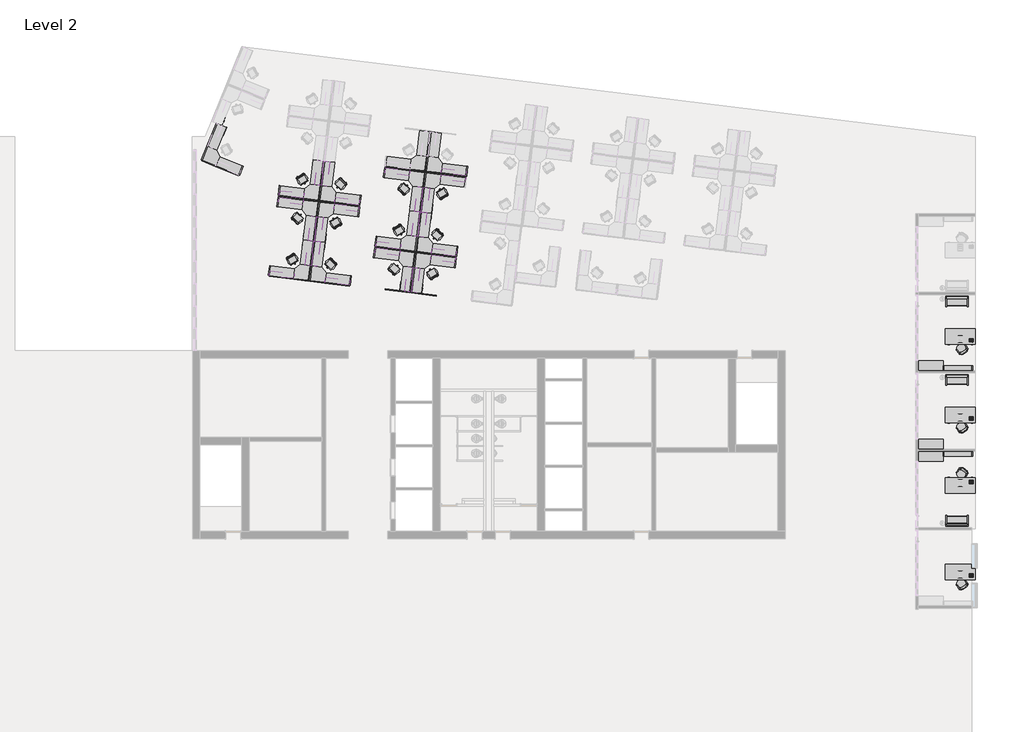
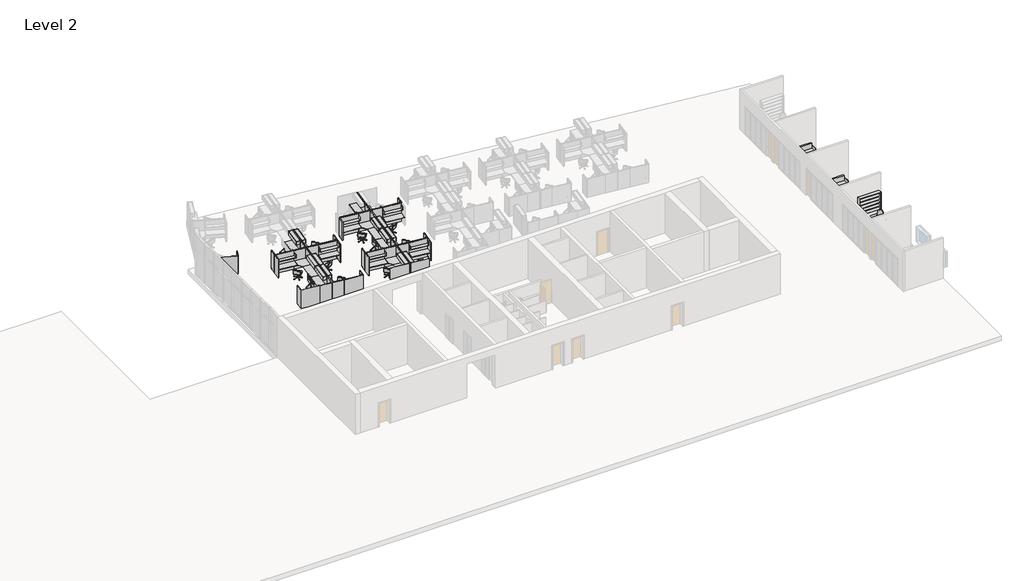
# One storey, part 5 of 7: 95 furniture elements, 4 proxies.
"""IFC4 building model written with IfcOpenShell, lengths in millimetres."""

from ifc_helpers import new_model, si_unit, origin, place, context, project, spatial, transform, mapped, element, save
from components import phone_phone_5230e7aa, phone_phone_b8b7aebd, chair_executive_chair_executive_8d69e98c, chair_executive_chair_executive_a5be4872, chair_task_arms_chair_task_arms_3b363349, chair_task_arms_chair_task_arms_8395c10b, furniture_894c625b, furniture_2f1724fb, furniture_665347ce, furniture_3ceed070, furniture_00cef8f1, furniture_8d825890, furniture_2fc54265, furniture_91cd4dc0, overhead_shelving_module_overhead_shelving_module_3ee17988, overhead_shelving_module_overhead_shelving_module_7dcda1b9, overhead_storage_module_overhead_storage_module_326dc690, overhead_storage_module_overhead_storage_module_bea9f75f, furniture_6f8441ab, furniture_6d145fab, furniture_22419f35, furniture_8ec9ccbf, furniture_0333d240, furniture_4718bb14, furniture_45e3acac, furniture_7b33082a

model = new_model("IFC4")

# Units and contexts
model_context = context("Model", 3, world=origin())
ifc_project = project(units=[si_unit("LENGTHUNIT", "METRE", prefix="MILLI")], contexts=[model_context])

# Site, building, storey
site = spatial("IfcSite", under=ifc_project)
building = spatial("IfcBuilding", under=site)
storey = spatial("IfcBuildingStorey", under=building, Name="Level 2", Elevation=3657.6)

# Proxies
placement = place(None, origin())
phone_phone_shape = phone_phone_5230e7aa(model_context)
element("IfcBuildingElementProxy", 1, Name="Phone : Phone", ObjectType="Phone : Phone", at=placement, inside=storey, context=model_context, shape_type="MappedRepresentation", body=[
    mapped(phone_phone_shape, transform((15049.386755, -11543.7561102, 4419.6), x_axis=(1.0, 0.0, 0.0), y_axis=(0.0, 1.0, 0.0), z_axis=(0.0, 0.0, 1.0))),
])
phone_phone_2_shape = phone_phone_b8b7aebd(model_context)
element("IfcBuildingElementProxy", 2, Name="Phone : Phone", ObjectType="Phone : Phone", at=placement, inside=storey, context=model_context, shape_type="MappedRepresentation", body=[
    mapped(phone_phone_2_shape, transform((15049.386755, -2377.1766865, 4419.6), x_axis=(1.0, 0.0, 0.0), y_axis=(0.0, 1.0, 0.0), z_axis=(0.0, 0.0, 1.0))),
])
element("IfcBuildingElementProxy", 3, Name="Phone : Phone", ObjectType="Phone : Phone", at=placement, inside=storey, context=model_context, shape_type="MappedRepresentation", body=[
    mapped(phone_phone_2_shape, transform((15049.386755, -7211.6809871, 4419.6), x_axis=(1.0, 0.0, 0.0), y_axis=(0.0, 1.0, 0.0), z_axis=(0.0, 0.0, 1.0))),
])
element("IfcBuildingElementProxy", 4, Name="Phone : Phone", ObjectType="Phone : Phone", at=placement, inside=storey, context=model_context, shape_type="MappedRepresentation", body=[
    mapped(phone_phone_2_shape, transform((15049.386755, -16880.6895882, 4419.6), x_axis=(1.0, 0.0, 0.0), y_axis=(0.0, 1.0, 0.0), z_axis=(0.0, 0.0, 1.0))),
])

# Furniture
chair_executive_chair_executive_shape = chair_executive_chair_executive_8d69e98c(model_context)
element("IfcFurniture", 5, ObjectType="Chair-Executive : Chair-Executive", at=placement, inside=storey, context=model_context, shape_type="MappedRepresentation", body=[
    mapped(chair_executive_chair_executive_shape, transform((14331.1988374, -10895.4183478, 3657.6), x_axis=(-0.8386705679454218, 0.5446390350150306, 0.0), y_axis=(-0.5446390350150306, -0.8386705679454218, 0.0), z_axis=(0.0, 0.0, 1.0))),
])
chair_executive_chair_executive_2_shape = chair_executive_chair_executive_a5be4872(model_context)
element("IfcFurniture", 6, ObjectType="Chair-Executive : Chair-Executive", at=placement, inside=storey, context=model_context, shape_type="MappedRepresentation", body=[
    mapped(chair_executive_chair_executive_2_shape, transform((14331.1988374, -3025.5144489, 3657.6), x_axis=(-0.8386705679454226, -0.5446390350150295, 0.0), y_axis=(0.5446390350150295, -0.8386705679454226, 0.0), z_axis=(0.0, 0.0, 1.0))),
])
element("IfcFurniture", 7, ObjectType="Chair-Executive : Chair-Executive", at=placement, inside=storey, context=model_context, shape_type="MappedRepresentation", body=[
    mapped(chair_executive_chair_executive_2_shape, transform((14331.1988374, -7860.0187495, 3657.6), x_axis=(-0.8386705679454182, -0.5446390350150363, 0.0), y_axis=(0.5446390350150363, -0.8386705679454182, 0.0), z_axis=(0.0, 0.0, 1.0))),
])
element("IfcFurniture", 8, ObjectType="Chair-Executive : Chair-Executive", at=placement, inside=storey, context=model_context, shape_type="MappedRepresentation", body=[
    mapped(chair_executive_chair_executive_2_shape, transform((14331.1988374, -17529.0273506, 3657.6), x_axis=(-0.8386705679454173, -0.5446390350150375, 0.0), y_axis=(0.5446390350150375, -0.8386705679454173, 0.0), z_axis=(0.0, 0.0, 1.0))),
])
chair_task_arms_chair_task_arms_shape = chair_task_arms_chair_task_arms_3b363349(model_context)
element("IfcFurniture", 9, ObjectType="Chair-Task Arms : Chair-Task Arms", at=placement, inside=storey, context=model_context, shape_type="MappedRepresentation", body=[
    mapped(chair_task_arms_chair_task_arms_shape, transform((-20294.5435692, 6809.0079878, 3657.6), x_axis=(0.719339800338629, -0.6946583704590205, 0.0), y_axis=(0.6946583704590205, 0.719339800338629, 0.0), z_axis=(0.0, 0.0, 1.0))),
])
element("IfcFurniture", 10, ObjectType="Chair-Task Arms : Chair-Task Arms", at=placement, inside=storey, context=model_context, shape_type="MappedRepresentation", body=[
    mapped(chair_task_arms_chair_task_arms_shape, transform((-23959.1336884, 6961.7514569, 3657.6), x_axis=(-0.7193398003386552, 0.6946583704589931, 0.0), y_axis=(-0.6946583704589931, -0.7193398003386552, 0.0), z_axis=(0.0, 0.0, 1.0))),
])
element("IfcFurniture", 11, ObjectType="Chair-Task Arms : Chair-Task Arms", at=placement, inside=storey, context=model_context, shape_type="MappedRepresentation", body=[
    mapped(chair_task_arms_chair_task_arms_shape, transform((-17997.8622143, 3824.2688972, 3657.6), x_axis=(-0.7193398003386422, 0.6946583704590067, 0.0), y_axis=(-0.6946583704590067, -0.7193398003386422, 0.0), z_axis=(0.0, 0.0, 1.0))),
])
element("IfcFurniture", 12, ObjectType="Chair-Task Arms : Chair-Task Arms", at=placement, inside=storey, context=model_context, shape_type="MappedRepresentation", body=[
    mapped(chair_task_arms_chair_task_arms_shape, transform((-24565.8480276, 2020.4596955, 3657.6), x_axis=(-0.7193398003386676, 0.6946583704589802, 0.0), y_axis=(-0.6946583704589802, -0.7193398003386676, 0.0), z_axis=(0.0, 0.0, 1.0))),
])
element("IfcFurniture", 13, ObjectType="Chair-Task Arms : Chair-Task Arms", at=placement, inside=storey, context=model_context, shape_type="MappedRepresentation", body=[
    mapped(chair_task_arms_chair_task_arms_shape, transform((-20901.2579084, 1867.7162265, 3657.6), x_axis=(0.7193398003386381, -0.694658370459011, 0.0), y_axis=(0.694658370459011, 0.7193398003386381, 0.0), z_axis=(0.0, 0.0, 1.0))),
])
element("IfcFurniture", 14, ObjectType="Chair-Task Arms : Chair-Task Arms", at=placement, inside=storey, context=model_context, shape_type="MappedRepresentation", body=[
    mapped(chair_task_arms_chair_task_arms_shape, transform((-26862.5293825, 5005.1987861, 3657.6), x_axis=(0.7193398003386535, -0.6946583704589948, 0.0), y_axis=(0.6946583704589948, 0.7193398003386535, 0.0), z_axis=(0.0, 0.0, 1.0))),
])
chair_task_arms_chair_task_arms_2_shape = chair_task_arms_chair_task_arms_8395c10b(model_context)
element("IfcFurniture", 15, ObjectType="Chair-Task Arms : Chair-Task Arms", at=placement, inside=storey, context=model_context, shape_type="MappedRepresentation", body=[
    mapped(chair_task_arms_chair_task_arms_2_shape, transform((-17670.9359707, 6486.8694808, 3657.6), x_axis=(-0.866025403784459, -0.49999999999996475, 0.0), y_axis=(0.49999999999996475, -0.866025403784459, 0.0), z_axis=(0.0, 0.0, 1.0))),
])
element("IfcFurniture", 16, ObjectType="Chair-Task Arms : Chair-Task Arms", at=placement, inside=storey, context=model_context, shape_type="MappedRepresentation", body=[
    mapped(chair_task_arms_chair_task_arms_2_shape, transform((-20621.4698127, 4146.4074042, 3657.6), x_axis=(0.8660254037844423, 0.4999999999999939, 0.0), y_axis=(-0.4999999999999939, 0.8660254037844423, 0.0), z_axis=(0.0, 0.0, 1.0))),
])
element("IfcFurniture", 17, ObjectType="Chair-Task Arms : Chair-Task Arms", at=placement, inside=storey, context=model_context, shape_type="MappedRepresentation", body=[
    mapped(chair_task_arms_chair_task_arms_2_shape, transform((-24238.921784, 4683.0602792, 3657.6), x_axis=(-0.8660254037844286, -0.5000000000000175, 0.0), y_axis=(0.5000000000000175, -0.8660254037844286, 0.0), z_axis=(0.0, 0.0, 1.0))),
])
element("IfcFurniture", 18, ObjectType="Chair-Task Arms : Chair-Task Arms", at=placement, inside=storey, context=model_context, shape_type="MappedRepresentation", body=[
    mapped(chair_task_arms_chair_task_arms_2_shape, transform((-18277.6503099, 1545.5777195, 3657.6), x_axis=(-0.8660254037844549, -0.4999999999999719, 0.0), y_axis=(0.4999999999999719, -0.8660254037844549, 0.0), z_axis=(0.0, 0.0, 1.0))),
])
element("IfcFurniture", 19, ObjectType="Chair-Task Arms : Chair-Task Arms", at=placement, inside=storey, context=model_context, shape_type="MappedRepresentation", body=[
    mapped(chair_task_arms_chair_task_arms_2_shape, transform((-26582.7412868, 7283.8899638, 3657.6), x_axis=(0.8660254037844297, 0.5000000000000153, 0.0), y_axis=(-0.5000000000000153, 0.8660254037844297, 0.0), z_axis=(0.0, 0.0, 1.0))),
])
element("IfcFurniture", 20, ObjectType="Chair-Task Arms : Chair-Task Arms", at=placement, inside=storey, context=model_context, shape_type="MappedRepresentation", body=[
    mapped(chair_task_arms_chair_task_arms_2_shape, transform((-27189.455626, 2342.5982025, 3657.6), x_axis=(0.8660254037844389, 0.49999999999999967, 0.0), y_axis=(-0.49999999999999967, 0.8660254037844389, 0.0), z_axis=(0.0, 0.0, 1.0))),
])
furniture_shape = furniture_894c625b(model_context)
element("IfcFurniture", 21, ObjectType="Credenza : 60\" x 24\"", at=placement, inside=storey, context=model_context, shape_type="MappedRepresentation", body=[
    mapped(furniture_shape, transform((12221.5111465, -4173.1445759, 3657.6), x_axis=(1.0, 0.0, 0.0), y_axis=(0.0, 1.0, 0.0), z_axis=(0.0, 0.0, 1.0))),
])
element("IfcFurniture", 22, ObjectType="Credenza : 60\" x 24\"", at=placement, inside=storey, context=model_context, shape_type="MappedRepresentation", body=[
    mapped(furniture_shape, transform((12221.5111465, -9007.6488765, 3657.6), x_axis=(1.0, 0.0, 0.0), y_axis=(0.0, 1.0, 0.0), z_axis=(0.0, 0.0, 1.0))),
])
furniture_2_shape = furniture_2f1724fb(model_context)
element("IfcFurniture", 23, ObjectType="Credenza : 60\" x 24\"", at=placement, inside=storey, context=model_context, shape_type="MappedRepresentation", body=[
    mapped(furniture_2_shape, transform((12221.5111465, -9747.7882208, 3657.6), x_axis=(1.0, 0.0, 0.0), y_axis=(0.0, 1.0, 0.0), z_axis=(0.0, 0.0, 1.0))),
])
furniture_3_shape = furniture_665347ce(model_context)
element("IfcFurniture", 24, ObjectType="Cube Panel : 24\" x 66\"", at=placement, inside=storey, context=model_context, shape_type="MappedRepresentation", body=[
    mapped(furniture_3_shape, transform((-21382.0390135, 7740.7875626, 3657.6), x_axis=(-0.12186934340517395, -0.9925461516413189, 0.0), y_axis=(0.9925461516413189, -0.12186934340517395, 0.0), z_axis=(0.0, 0.0, 1.0))),
])
element("IfcFurniture", 25, ObjectType="Cube Panel : 24\" x 66\"", at=placement, inside=storey, context=model_context, shape_type="MappedRepresentation", body=[
    mapped(furniture_3_shape, transform((-16303.6524307, 7833.7810838, 3657.6), x_axis=(0.12186934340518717, 0.9925461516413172, 0.0), y_axis=(-0.9925461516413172, 0.12186934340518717, 0.0), z_axis=(0.0, 0.0, 1.0))),
])
element("IfcFurniture", 26, ObjectType="Cube Panel : 24\" x 66\"", at=placement, inside=storey, context=model_context, shape_type="MappedRepresentation", body=[
    mapped(furniture_3_shape, transform((-22871.638244, 6029.9718821, 3657.6), x_axis=(0.12186934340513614, 0.9925461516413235, 0.0), y_axis=(-0.9925461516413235, 0.12186934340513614, 0.0), z_axis=(0.0, 0.0, 1.0))),
])
element("IfcFurniture", 27, ObjectType="Cube Panel : 24\" x 66\"", at=placement, inside=storey, context=model_context, shape_type="MappedRepresentation", body=[
    mapped(furniture_3_shape, transform((-16910.3667699, 2892.4893225, 3657.6), x_axis=(0.12186934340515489, 0.9925461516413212, 0.0), y_axis=(-0.9925461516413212, 0.12186934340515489, 0.0), z_axis=(0.0, 0.0, 1.0))),
])
element("IfcFurniture", 28, ObjectType="Cube Panel : 24\" x 66\"", at=placement, inside=storey, context=model_context, shape_type="MappedRepresentation", body=[
    mapped(furniture_3_shape, transform((-23478.3525832, 1088.6801208, 3657.6), x_axis=(0.12186934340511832, 0.9925461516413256, 0.0), y_axis=(-0.9925461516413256, 0.12186934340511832, 0.0), z_axis=(0.0, 0.0, 1.0))),
])
element("IfcFurniture", 29, ObjectType="Cube Panel : 24\" x 66\"", at=placement, inside=storey, context=model_context, shape_type="MappedRepresentation", body=[
    mapped(furniture_3_shape, transform((-21988.7533528, 2799.4958013, 3657.6), x_axis=(-0.12186934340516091, -0.9925461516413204, 0.0), y_axis=(0.9925461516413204, -0.12186934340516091, 0.0), z_axis=(0.0, 0.0, 1.0))),
])
element("IfcFurniture", 30, ObjectType="Cube Panel : 24\" x 66\"", at=placement, inside=storey, context=model_context, shape_type="MappedRepresentation", body=[
    mapped(furniture_3_shape, transform((-27950.0248269, 5936.9783609, 3657.6), x_axis=(-0.12186934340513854, -0.9925461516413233, 0.0), y_axis=(0.9925461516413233, -0.12186934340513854, 0.0), z_axis=(0.0, 0.0, 1.0))),
])
element("IfcFurniture", 31, ObjectType="Cube Panel : 24\" x 66\"", at=placement, inside=storey, context=model_context, shape_type="MappedRepresentation", body=[
    mapped(furniture_3_shape, transform((-30219.5912683, 7857.7185256, 3657.6), x_axis=(0.3785502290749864, 0.9255807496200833, 0.0), y_axis=(-0.9255807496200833, 0.3785502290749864, 0.0), z_axis=(0.0, 0.0, 1.0))),
])
furniture_4_shape = furniture_3ceed070(model_context)
element("IfcFurniture", 32, ObjectType="Cube Panel : 24\" x 66\"", at=placement, inside=storey, context=model_context, shape_type="MappedRepresentation", body=[
    mapped(furniture_4_shape, transform((-21902.0798757, 3505.3946243, 3657.6), x_axis=(0.12186934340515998, 0.9925461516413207, 0.0), y_axis=(-0.9925461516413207, 0.12186934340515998, 0.0), z_axis=(0.0, 0.0, 1.0))),
])
element("IfcFurniture", 33, ObjectType="Cube Panel : 24\" x 66\"", at=placement, inside=storey, context=model_context, shape_type="MappedRepresentation", body=[
    mapped(furniture_4_shape, transform((-22958.311721, 5324.073059, 3657.6), x_axis=(-0.12186934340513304, -0.992546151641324, 0.0), y_axis=(0.992546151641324, -0.12186934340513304, 0.0), z_axis=(0.0, 0.0, 1.0))),
])
element("IfcFurniture", 34, ObjectType="Cube Panel : 24\" x 66\"", at=placement, inside=storey, context=model_context, shape_type="MappedRepresentation", body=[
    mapped(furniture_4_shape, transform((-16997.0402469, 2186.5904994, 3657.6), x_axis=(-0.12186934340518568, -0.9925461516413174, 0.0), y_axis=(0.9925461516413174, -0.12186934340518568, 0.0), z_axis=(0.0, 0.0, 1.0))),
])
element("IfcFurniture", 35, ObjectType="Cube Panel : 24\" x 66\"", at=placement, inside=storey, context=model_context, shape_type="MappedRepresentation", body=[
    mapped(furniture_4_shape, transform((-27863.3513498, 6642.8771839, 3657.6), x_axis=(0.12186934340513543, 0.9925461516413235, 0.0), y_axis=(-0.9925461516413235, 0.12186934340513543, 0.0), z_axis=(0.0, 0.0, 1.0))),
])
element("IfcFurniture", 36, ObjectType="Cube Panel : 24\" x 66\"", at=placement, inside=storey, context=model_context, shape_type="MappedRepresentation", body=[
    mapped(furniture_4_shape, transform((-28470.065689, 1701.5854226, 3657.6), x_axis=(0.12186934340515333, 0.9925461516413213, 0.0), y_axis=(-0.9925461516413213, 0.12186934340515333, 0.0), z_axis=(0.0, 0.0, 1.0))),
])
furniture_5_shape = furniture_00cef8f1(model_context)
element("IfcFurniture", 37, ObjectType="Cube Panel : 60\" x 66\"", at=placement, inside=storey, context=model_context, shape_type="MappedRepresentation", body=[
    mapped(furniture_5_shape, transform((-20562.7542243, 449.1914113, 3657.6), x_axis=(-0.9925461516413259, 0.12186934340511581, 0.0), y_axis=(-0.12186934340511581, -0.9925461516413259, 0.0), z_axis=(0.0, 0.0, 1.0))),
])
furniture_6_shape = furniture_8d825890(model_context)
element("IfcFurniture", 38, ObjectType="Cube Panel : 60\" x 66\"", at=placement, inside=storey, context=model_context, shape_type="MappedRepresentation", body=[
    mapped(furniture_6_shape, transform((-18949.2712002, 251.0806066, 3657.6), x_axis=(0.9925461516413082, -0.12186934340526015, 0.0), y_axis=(0.12186934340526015, 0.9925461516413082, 0.0), z_axis=(0.0, 0.0, 1.0))),
])
furniture_7_shape = furniture_2fc54265(model_context)
element("IfcFurniture", 39, ObjectType="Desk : 72\" x 36\"", at=placement, inside=storey, context=model_context, shape_type="MappedRepresentation", body=[
    mapped(furniture_7_shape, transform((13214.5054088, -12007.5598812, 3657.6), x_axis=(1.0, 0.0, 0.0), y_axis=(0.0, 1.0, 0.0), z_axis=(0.0, 0.0, 1.0))),
])
furniture_8_shape = furniture_91cd4dc0(model_context)
element("IfcFurniture", 40, ObjectType="Desk : 72\" x 36\"", at=placement, inside=storey, context=model_context, shape_type="MappedRepresentation", body=[
    mapped(furniture_8_shape, transform((13214.5054088, -1913.3729155, 3657.6), x_axis=(1.0, 0.0, 0.0), y_axis=(0.0, 1.0, 0.0), z_axis=(0.0, 0.0, 1.0))),
])
element("IfcFurniture", 41, ObjectType="Desk : 72\" x 36\"", at=placement, inside=storey, context=model_context, shape_type="MappedRepresentation", body=[
    mapped(furniture_8_shape, transform((13214.5054088, -6747.877216, 3657.6), x_axis=(1.0, 0.0, 0.0), y_axis=(0.0, 1.0, 0.0), z_axis=(0.0, 0.0, 1.0))),
])
element("IfcFurniture", 42, ObjectType="Desk : 72\" x 36\"", at=placement, inside=storey, context=model_context, shape_type="MappedRepresentation", body=[
    mapped(furniture_8_shape, transform((13214.5054088, -16416.8858172, 3657.6), x_axis=(1.0, 0.0, 0.0), y_axis=(0.0, 1.0, 0.0), z_axis=(0.0, 0.0, 1.0))),
])
overhead_shelving_module_overhead_shelving_module_shape = overhead_shelving_module_overhead_shelving_module_3ee17988(model_context)
element("IfcFurniture", 43, ObjectType="Overhead Shelving Module : Overhead Shelving Module", at=placement, inside=storey, context=model_context, shape_type="MappedRepresentation", body=[
    mapped(overhead_shelving_module_overhead_shelving_module_shape, transform((-20435.5371217, 7693.7235514, 3505.2), x_axis=(0.9925461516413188, -0.12186934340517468, 0.0), y_axis=(0.12186934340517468, 0.9925461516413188, 0.0), z_axis=(0.0, 0.0, 1.0))),
])
element("IfcFurniture", 44, ObjectType="Overhead Shelving Module : Overhead Shelving Module", at=placement, inside=storey, context=model_context, shape_type="MappedRepresentation", body=[
    mapped(overhead_shelving_module_overhead_shelving_module_shape, transform((-17250.1543225, 7880.8450949, 3505.2), x_axis=(-0.9925461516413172, 0.12186934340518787, 0.0), y_axis=(-0.12186934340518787, -0.9925461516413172, 0.0), z_axis=(0.0, 0.0, 1.0))),
])
element("IfcFurniture", 45, ObjectType="Overhead Shelving Module : Overhead Shelving Module", at=placement, inside=storey, context=model_context, shape_type="MappedRepresentation", body=[
    mapped(overhead_shelving_module_overhead_shelving_module_shape, transform((-23818.1401358, 6077.0358932, 3505.2), x_axis=(-0.9925461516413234, 0.12186934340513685, 0.0), y_axis=(-0.12186934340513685, -0.9925461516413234, 0.0), z_axis=(0.0, 0.0, 1.0))),
])
element("IfcFurniture", 46, ObjectType="Overhead Shelving Module : Overhead Shelving Module", at=placement, inside=storey, context=model_context, shape_type="MappedRepresentation", body=[
    mapped(overhead_shelving_module_overhead_shelving_module_shape, transform((-17856.8686617, 2939.5533336, 3505.2), x_axis=(-0.9925461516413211, 0.12186934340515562, 0.0), y_axis=(-0.12186934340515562, -0.9925461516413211, 0.0), z_axis=(0.0, 0.0, 1.0))),
])
element("IfcFurniture", 47, ObjectType="Overhead Shelving Module : Overhead Shelving Module", at=placement, inside=storey, context=model_context, shape_type="MappedRepresentation", body=[
    mapped(overhead_shelving_module_overhead_shelving_module_shape, transform((-24424.8544751, 1135.7441319, 3505.2), x_axis=(-0.9925461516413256, 0.12186934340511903, 0.0), y_axis=(-0.12186934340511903, -0.9925461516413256, 0.0), z_axis=(0.0, 0.0, 1.0))),
])
element("IfcFurniture", 48, ObjectType="Overhead Shelving Module : Overhead Shelving Module", at=placement, inside=storey, context=model_context, shape_type="MappedRepresentation", body=[
    mapped(overhead_shelving_module_overhead_shelving_module_shape, transform((-21042.2514609, 2752.4317901, 3505.2), x_axis=(0.9925461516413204, -0.12186934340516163, 0.0), y_axis=(0.12186934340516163, 0.9925461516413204, 0.0), z_axis=(0.0, 0.0, 1.0))),
])
element("IfcFurniture", 49, ObjectType="Overhead Shelving Module : Overhead Shelving Module", at=placement, inside=storey, context=model_context, shape_type="MappedRepresentation", body=[
    mapped(overhead_shelving_module_overhead_shelving_module_shape, transform((-27003.522935, 5889.9143497, 3505.2), x_axis=(0.9925461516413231, -0.12186934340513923, 0.0), y_axis=(0.12186934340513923, 0.9925461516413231, 0.0), z_axis=(0.0, 0.0, 1.0))),
])
overhead_shelving_module_overhead_shelving_module_2_shape = overhead_shelving_module_overhead_shelving_module_7dcda1b9(model_context)
element("IfcFurniture", 50, ObjectType="Overhead Shelving Module : Overhead Shelving Module", at=placement, inside=storey, context=model_context, shape_type="MappedRepresentation", body=[
    mapped(overhead_shelving_module_overhead_shelving_module_2_shape, transform((-17320.0984631, 7311.1957837, 3505.2), x_axis=(-0.9925461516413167, 0.12186934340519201, 0.0), y_axis=(-0.12186934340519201, -0.9925461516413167, 0.0), z_axis=(0.0, 0.0, 1.0))),
])
element("IfcFurniture", 51, ObjectType="Overhead Shelving Module : Overhead Shelving Module", at=placement, inside=storey, context=model_context, shape_type="MappedRepresentation", body=[
    mapped(overhead_shelving_module_overhead_shelving_module_2_shape, transform((-20972.3073204, 3322.0811013, 3505.2), x_axis=(0.9925461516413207, -0.12186934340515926, 0.0), y_axis=(0.12186934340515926, 0.9925461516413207, 0.0), z_axis=(0.0, 0.0, 1.0))),
])
element("IfcFurniture", 52, ObjectType="Overhead Shelving Module : Overhead Shelving Module", at=placement, inside=storey, context=model_context, shape_type="MappedRepresentation", body=[
    mapped(overhead_shelving_module_overhead_shelving_module_2_shape, transform((-23888.0842764, 5507.386582, 3505.2), x_axis=(-0.992546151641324, 0.12186934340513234, 0.0), y_axis=(-0.12186934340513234, -0.992546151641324, 0.0), z_axis=(0.0, 0.0, 1.0))),
])
element("IfcFurniture", 53, ObjectType="Overhead Shelving Module : Overhead Shelving Module", at=placement, inside=storey, context=model_context, shape_type="MappedRepresentation", body=[
    mapped(overhead_shelving_module_overhead_shelving_module_2_shape, transform((-17926.8128023, 2369.9040224, 3505.2), x_axis=(-0.9925461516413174, 0.12186934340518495, 0.0), y_axis=(-0.12186934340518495, -0.9925461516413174, 0.0), z_axis=(0.0, 0.0, 1.0))),
])
element("IfcFurniture", 54, ObjectType="Overhead Shelving Module : Overhead Shelving Module", at=placement, inside=storey, context=model_context, shape_type="MappedRepresentation", body=[
    mapped(overhead_shelving_module_overhead_shelving_module_2_shape, transform((-26933.5787945, 6459.563661, 3505.2), x_axis=(0.9925461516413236, -0.12186934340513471, 0.0), y_axis=(0.12186934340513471, 0.9925461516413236, 0.0), z_axis=(0.0, 0.0, 1.0))),
])
element("IfcFurniture", 55, ObjectType="Overhead Shelving Module : Overhead Shelving Module", at=placement, inside=storey, context=model_context, shape_type="MappedRepresentation", body=[
    mapped(overhead_shelving_module_overhead_shelving_module_2_shape, transform((-27540.2931337, 1518.2718996, 3505.2), x_axis=(0.9925461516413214, -0.12186934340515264, 0.0), y_axis=(0.12186934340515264, 0.9925461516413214, 0.0), z_axis=(0.0, 0.0, 1.0))),
])
overhead_storage_module_overhead_storage_module_shape = overhead_storage_module_overhead_storage_module_326dc690(model_context)
element("IfcFurniture", 56, ObjectType="Overhead Storage Module : Overhead Storage Module", at=placement, inside=storey, context=model_context, shape_type="MappedRepresentation", body=[
    mapped(overhead_storage_module_overhead_storage_module_shape, transform((-19357.3919537, 5951.3242965, 3657.6), x_axis=(-0.12186934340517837, -0.9925461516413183, 0.0), y_axis=(0.9925461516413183, -0.12186934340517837, 0.0), z_axis=(0.0, 0.0, 1.0))),
])
element("IfcFurniture", 57, ObjectType="Overhead Storage Module : Overhead Storage Module", at=placement, inside=storey, context=model_context, shape_type="MappedRepresentation", body=[
    mapped(overhead_storage_module_overhead_storage_module_shape, transform((-24896.2853038, 7819.4351481, 3657.6), x_axis=(0.12186934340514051, 0.992546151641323, 0.0), y_axis=(-0.992546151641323, 0.12186934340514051, 0.0), z_axis=(0.0, 0.0, 1.0))),
])
element("IfcFurniture", 58, ObjectType="Overhead Storage Module : Overhead Storage Module", at=placement, inside=storey, context=model_context, shape_type="MappedRepresentation", body=[
    mapped(overhead_storage_module_overhead_storage_module_shape, transform((-18935.0138297, 4681.9525885, 3657.6), x_axis=(0.12186934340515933, 0.9925461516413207, 0.0), y_axis=(-0.9925461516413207, 0.12186934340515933, 0.0), z_axis=(0.0, 0.0, 1.0))),
])
element("IfcFurniture", 59, ObjectType="Overhead Storage Module : Overhead Storage Module", at=placement, inside=storey, context=model_context, shape_type="MappedRepresentation", body=[
    mapped(overhead_storage_module_overhead_storage_module_shape, transform((-25502.999643, 2878.1433868, 3657.6), x_axis=(0.12186934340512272, 0.9925461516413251, 0.0), y_axis=(-0.9925461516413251, 0.12186934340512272, 0.0), z_axis=(0.0, 0.0, 1.0))),
])
element("IfcFurniture", 60, ObjectType="Overhead Storage Module : Overhead Storage Module", at=placement, inside=storey, context=model_context, shape_type="MappedRepresentation", body=[
    mapped(overhead_storage_module_overhead_storage_module_shape, transform((-19964.1062929, 1010.0325352, 3657.6), x_axis=(-0.12186934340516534, -0.99254615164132, 0.0), y_axis=(0.99254615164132, -0.12186934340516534, 0.0), z_axis=(0.0, 0.0, 1.0))),
])
element("IfcFurniture", 61, ObjectType="Overhead Storage Module : Overhead Storage Module", at=placement, inside=storey, context=model_context, shape_type="MappedRepresentation", body=[
    mapped(overhead_storage_module_overhead_storage_module_shape, transform((-25925.377767, 4147.5150948, 3657.6), x_axis=(-0.12186934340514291, -0.9925461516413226, 0.0), y_axis=(0.9925461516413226, -0.12186934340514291, 0.0), z_axis=(0.0, 0.0, 1.0))),
])
overhead_storage_module_overhead_storage_module_2_shape = overhead_storage_module_overhead_storage_module_bea9f75f(model_context)
element("IfcFurniture", 62, ObjectType="Overhead Storage Module : Overhead Storage Module", at=placement, inside=storey, context=model_context, shape_type="MappedRepresentation", body=[
    mapped(overhead_storage_module_overhead_storage_module_2_shape, transform((-18787.7426425, 5881.380156, 3657.6), x_axis=(-0.1218693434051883, -0.9925461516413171, 0.0), y_axis=(0.9925461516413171, -0.1218693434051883, 0.0), z_axis=(0.0, 0.0, 1.0))),
])
element("IfcFurniture", 63, ObjectType="Overhead Storage Module : Overhead Storage Module", at=placement, inside=storey, context=model_context, shape_type="MappedRepresentation", body=[
    mapped(overhead_storage_module_overhead_storage_module_2_shape, transform((-19504.6631409, 4751.896729, 3657.6), x_axis=(0.12186934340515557, 0.9925461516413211, 0.0), y_axis=(-0.9925461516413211, 0.12186934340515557, 0.0), z_axis=(0.0, 0.0, 1.0))),
])
element("IfcFurniture", 64, ObjectType="Overhead Storage Module : Overhead Storage Module", at=placement, inside=storey, context=model_context, shape_type="MappedRepresentation", body=[
    mapped(overhead_storage_module_overhead_storage_module_2_shape, transform((-25355.7284558, 4077.5709543, 3657.6), x_axis=(-0.12186934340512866, -0.9925461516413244, 0.0), y_axis=(0.9925461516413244, -0.12186934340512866, 0.0), z_axis=(0.0, 0.0, 1.0))),
])
element("IfcFurniture", 65, ObjectType="Overhead Storage Module : Overhead Storage Module", at=placement, inside=storey, context=model_context, shape_type="MappedRepresentation", body=[
    mapped(overhead_storage_module_overhead_storage_module_2_shape, transform((-19394.4569817, 940.0883947, 3657.6), x_axis=(-0.12186934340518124, -0.992546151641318, 0.0), y_axis=(0.992546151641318, -0.12186934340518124, 0.0), z_axis=(0.0, 0.0, 1.0))),
])
element("IfcFurniture", 66, ObjectType="Overhead Storage Module : Overhead Storage Module", at=placement, inside=storey, context=model_context, shape_type="MappedRepresentation", body=[
    mapped(overhead_storage_module_overhead_storage_module_2_shape, transform((-25465.934615, 7889.3792887, 3657.6), x_axis=(0.12186934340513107, 0.9925461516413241, 0.0), y_axis=(-0.9925461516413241, 0.12186934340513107, 0.0), z_axis=(0.0, 0.0, 1.0))),
])
element("IfcFurniture", 67, ObjectType="Overhead Storage Module : Overhead Storage Module", at=placement, inside=storey, context=model_context, shape_type="MappedRepresentation", body=[
    mapped(overhead_storage_module_overhead_storage_module_2_shape, transform((-26072.6489542, 2948.0875274, 3657.6), x_axis=(0.12186934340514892, 0.9925461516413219, 0.0), y_axis=(-0.9925461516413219, 0.12186934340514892, 0.0), z_axis=(0.0, 0.0, 1.0))),
])
furniture_9_shape = furniture_6f8441ab(model_context)
element("IfcFurniture", 68, ObjectType="Shelving : 96\" x 12\" x 84\"", at=placement, inside=storey, context=model_context, shape_type="MappedRepresentation", body=[
    mapped(furniture_9_shape, transform((13982.8554088, -9295.1685486, 3657.6), x_axis=(1.0, 0.0, 0.0), y_axis=(0.0, 1.0, 0.0), z_axis=(0.0, 0.0, 1.0))),
])
furniture_10_shape = furniture_6d145fab(model_context)
element("IfcFurniture", 69, ObjectType="Shelving : 96\" x 12\" x 84\"", at=placement, inside=storey, context=model_context, shape_type="MappedRepresentation", body=[
    mapped(furniture_10_shape, transform((13982.8554088, -4625.7642481, 3657.6), x_axis=(1.0, 0.0, 0.0), y_axis=(0.0, 1.0, 0.0), z_axis=(0.0, 0.0, 1.0))),
])
furniture_11_shape = furniture_22419f35(model_context)
element("IfcFurniture", 70, ObjectType="Sofa : 54\"", at=placement, inside=storey, context=model_context, shape_type="MappedRepresentation", body=[
    mapped(furniture_11_shape, transform((13848.0435844, -350.5126789, 3657.6), x_axis=(1.0, 0.0, 0.0), y_axis=(0.0, 1.0, 0.0), z_axis=(0.0, 0.0, 1.0))),
])
element("IfcFurniture", 71, ObjectType="Sofa : 54\"", at=placement, inside=storey, context=model_context, shape_type="MappedRepresentation", body=[
    mapped(furniture_11_shape, transform((13848.0435844, -5185.0169794, 3657.6), x_axis=(1.0, 0.0, 0.0), y_axis=(0.0, 1.0, 0.0), z_axis=(0.0, 0.0, 1.0))),
])
furniture_12_shape = furniture_8ec9ccbf(model_context)
element("IfcFurniture", 72, ObjectType="Sofa : 54\"", at=placement, inside=storey, context=model_context, shape_type="MappedRepresentation", body=[
    mapped(furniture_12_shape, transform((13848.0435844, -13570.4201178, 3657.6), x_axis=(1.0, 0.0, 0.0), y_axis=(0.0, 1.0, 0.0), z_axis=(0.0, 0.0, 1.0))),
])
furniture_13_shape = furniture_0333d240(model_context)
element("IfcFurniture", 73, ObjectType="Storage Pedestal : 20\" x 30\" x 36\"", at=placement, inside=storey, context=model_context, shape_type="MappedRepresentation", body=[
    mapped(furniture_13_shape, transform((-18629.0164744, 5353.259729, 3657.6), x_axis=(-0.12186934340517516, -0.9925461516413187, 0.0), y_axis=(0.9925461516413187, -0.12186934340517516, 0.0), z_axis=(0.0, 0.0, 1.0))),
])
element("IfcFurniture", 74, ObjectType="Storage Pedestal : 20\" x 30\" x 36\"", at=placement, inside=storey, context=model_context, shape_type="MappedRepresentation", body=[
    mapped(furniture_13_shape, transform((-19663.3893091, 5280.017156, 3657.6), x_axis=(0.12186934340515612, 0.9925461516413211, 0.0), y_axis=(-0.9925461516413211, 0.12186934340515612, 0.0), z_axis=(0.0, 0.0, 1.0))),
])
element("IfcFurniture", 75, ObjectType="Storage Pedestal : 20\" x 30\" x 36\"", at=placement, inside=storey, context=model_context, shape_type="MappedRepresentation", body=[
    mapped(furniture_13_shape, transform((-26231.3751224, 3476.2079543, 3657.6), x_axis=(0.12186934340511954, 0.9925461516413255, 0.0), y_axis=(-0.9925461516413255, 0.12186934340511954, 0.0), z_axis=(0.0, 0.0, 1.0))),
])
element("IfcFurniture", 76, ObjectType="Storage Pedestal : 20\" x 30\" x 36\"", at=placement, inside=storey, context=model_context, shape_type="MappedRepresentation", body=[
    mapped(furniture_13_shape, transform((-19235.7308136, 411.9679677, 3657.6), x_axis=(-0.12186934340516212, -0.9925461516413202, 0.0), y_axis=(0.9925461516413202, -0.12186934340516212, 0.0), z_axis=(0.0, 0.0, 1.0))),
])
element("IfcFurniture", 77, ObjectType="Storage Pedestal : 20\" x 30\" x 36\"", at=placement, inside=storey, context=model_context, shape_type="MappedRepresentation", body=[
    mapped(furniture_13_shape, transform((-25197.0022877, 3549.4505273, 3657.6), x_axis=(-0.12186934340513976, -0.9925461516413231, 0.0), y_axis=(0.9925461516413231, -0.12186934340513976, 0.0), z_axis=(0.0, 0.0, 1.0))),
])
element("IfcFurniture", 78, ObjectType="Storage Pedestal : 20\" x 30\" x 36\"", at=placement, inside=storey, context=model_context, shape_type="MappedRepresentation", body=[
    mapped(furniture_13_shape, transform((-32247.9999957, 10885.0903713, 3657.6), x_axis=(0.37855022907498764, 0.9255807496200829, 0.0), y_axis=(-0.9255807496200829, 0.37855022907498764, 0.0), z_axis=(0.0, 0.0, 1.0))),
])
furniture_14_shape = furniture_4718bb14(model_context)
element("IfcFurniture", 79, ObjectType="Storage Pedestal : 20\" x 30\" x 36\"", at=placement, inside=storey, context=model_context, shape_type="MappedRepresentation", body=[
    mapped(furniture_14_shape, transform((-19639.1671711, 5477.2906387, 3657.6), x_axis=(-0.12186934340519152, -0.9925461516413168, 0.0), y_axis=(0.9925461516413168, -0.12186934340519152, 0.0), z_axis=(0.0, 0.0, 1.0))),
])
element("IfcFurniture", 80, ObjectType="Storage Pedestal : 20\" x 30\" x 36\"", at=placement, inside=storey, context=model_context, shape_type="MappedRepresentation", body=[
    mapped(furniture_14_shape, transform((-18653.2386123, 5155.9862463, 3657.6), x_axis=(0.12186934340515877, 0.9925461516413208, 0.0), y_axis=(-0.9925461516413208, 0.12186934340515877, 0.0), z_axis=(0.0, 0.0, 1.0))),
])
element("IfcFurniture", 81, ObjectType="Storage Pedestal : 20\" x 30\" x 36\"", at=placement, inside=storey, context=model_context, shape_type="MappedRepresentation", body=[
    mapped(furniture_14_shape, transform((-26207.1529844, 3673.481437, 3657.6), x_axis=(-0.12186934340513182, -0.9925461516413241, 0.0), y_axis=(0.9925461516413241, -0.12186934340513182, 0.0), z_axis=(0.0, 0.0, 1.0))),
])
element("IfcFurniture", 82, ObjectType="Storage Pedestal : 20\" x 30\" x 36\"", at=placement, inside=storey, context=model_context, shape_type="MappedRepresentation", body=[
    mapped(furniture_14_shape, transform((-20245.8815103, 535.9988774, 3657.6), x_axis=(-0.12186934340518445, -0.9925461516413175, 0.0), y_axis=(0.9925461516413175, -0.12186934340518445, 0.0), z_axis=(0.0, 0.0, 1.0))),
])
element("IfcFurniture", 83, ObjectType="Storage Pedestal : 20\" x 30\" x 36\"", at=placement, inside=storey, context=model_context, shape_type="MappedRepresentation", body=[
    mapped(furniture_14_shape, transform((-25221.2244257, 3352.1770446, 3657.6), x_axis=(0.12186934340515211, 0.9925461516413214, 0.0), y_axis=(-0.9925461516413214, 0.12186934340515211, 0.0), z_axis=(0.0, 0.0, 1.0))),
])
element("IfcFurniture", 84, ObjectType="Storage Pedestal : 20\" x 30\" x 36\"", at=placement, inside=storey, context=model_context, shape_type="MappedRepresentation", body=[
    mapped(furniture_14_shape, transform((-32454.8782679, 11184.4362572, 3657.6), x_axis=(-0.3785502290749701, -0.9255807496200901, 0.0), y_axis=(0.9255807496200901, -0.3785502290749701, 0.0), z_axis=(0.0, 0.0, 1.0))),
])
furniture_15_shape = furniture_45e3acac(model_context)
element("IfcFurniture", 85, ObjectType="Work Station Cubicle : 96\" x 96\"", at=placement, inside=storey, context=model_context, shape_type="MappedRepresentation", body=[
    mapped(furniture_15_shape, transform((-18367.5666031, 7596.2063506, 3657.6), x_axis=(-0.12186934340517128, -0.9925461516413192, 0.0), y_axis=(0.9925461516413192, -0.12186934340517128, 0.0), z_axis=(0.0, 0.0, 1.0))),
])
element("IfcFurniture", 86, ObjectType="Work Station Cubicle : 96\" x 96\"", at=placement, inside=storey, context=model_context, shape_type="MappedRepresentation", body=[
    mapped(furniture_15_shape, transform((-19318.1248412, 7978.3622958, 3657.6), x_axis=(0.12186934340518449, 0.9925461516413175, 0.0), y_axis=(-0.9925461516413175, 0.12186934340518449, 0.0), z_axis=(0.0, 0.0, 1.0))),
])
element("IfcFurniture", 87, ObjectType="Work Station Cubicle : 96\" x 96\"", at=placement, inside=storey, context=model_context, shape_type="MappedRepresentation", body=[
    mapped(furniture_15_shape, transform((-25886.1106545, 6174.5530941, 3657.6), x_axis=(0.12186934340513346, 0.9925461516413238, 0.0), y_axis=(-0.9925461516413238, 0.12186934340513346, 0.0), z_axis=(0.0, 0.0, 1.0))),
])
element("IfcFurniture", 88, ObjectType="Work Station Cubicle : 96\" x 96\"", at=placement, inside=storey, context=model_context, shape_type="MappedRepresentation", body=[
    mapped(furniture_15_shape, transform((-19924.8391804, 3037.0705345, 3657.6), x_axis=(0.1218693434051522, 0.9925461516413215, 0.0), y_axis=(-0.9925461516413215, 0.1218693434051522, 0.0), z_axis=(0.0, 0.0, 1.0))),
])
element("IfcFurniture", 89, ObjectType="Work Station Cubicle : 96\" x 96\"", at=placement, inside=storey, context=model_context, shape_type="MappedRepresentation", body=[
    mapped(furniture_15_shape, transform((-26492.8249937, 1233.2613328, 3657.6), x_axis=(0.12186934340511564, 0.992546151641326, 0.0), y_axis=(-0.992546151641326, 0.12186934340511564, 0.0), z_axis=(0.0, 0.0, 1.0))),
])
element("IfcFurniture", 90, ObjectType="Work Station Cubicle : 96\" x 96\"", at=placement, inside=storey, context=model_context, shape_type="MappedRepresentation", body=[
    mapped(furniture_15_shape, transform((-18974.2809423, 2654.9145892, 3657.6), x_axis=(-0.12186934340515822, -0.9925461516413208, 0.0), y_axis=(0.9925461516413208, -0.12186934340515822, 0.0), z_axis=(0.0, 0.0, 1.0))),
])
element("IfcFurniture", 91, ObjectType="Work Station Cubicle : 96\" x 96\"", at=placement, inside=storey, context=model_context, shape_type="MappedRepresentation", body=[
    mapped(furniture_15_shape, transform((-24935.5524164, 5792.3971489, 3657.6), x_axis=(-0.12186934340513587, -0.9925461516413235, 0.0), y_axis=(0.9925461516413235, -0.12186934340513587, 0.0), z_axis=(0.0, 0.0, 1.0))),
])
element("IfcFurniture", 92, ObjectType="Work Station Cubicle : 96\" x 96\"", at=placement, inside=storey, context=model_context, shape_type="MappedRepresentation", body=[
    mapped(furniture_15_shape, transform((-33089.9857643, 8789.803864, 3657.6), x_axis=(0.378550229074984, 0.9255807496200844, 0.0), y_axis=(-0.9255807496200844, 0.378550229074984, 0.0), z_axis=(0.0, 0.0, 1.0))),
])
furniture_16_shape = furniture_7b33082a(model_context)
element("IfcFurniture", 93, ObjectType="Work Station Cubicle : 96\" x 96\"", at=placement, inside=storey, context=model_context, shape_type="MappedRepresentation", body=[
    mapped(furniture_16_shape, transform((-18335.4584788, 7857.706038, 3657.6), x_axis=(0.12186934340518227, 0.9925461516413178, 0.0), y_axis=(-0.9925461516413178, 0.12186934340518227, 0.0), z_axis=(0.0, 0.0, 1.0))),
])
element("IfcFurniture", 94, ObjectType="Work Station Cubicle : 96\" x 96\"", at=placement, inside=storey, context=model_context, shape_type="MappedRepresentation", body=[
    mapped(furniture_16_shape, transform((-19350.2329655, 7716.8626084, 3657.6), x_axis=(-0.12186934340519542, -0.9925461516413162, 0.0), y_axis=(0.9925461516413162, -0.12186934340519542, 0.0), z_axis=(0.0, 0.0, 1.0))),
])
element("IfcFurniture", 95, ObjectType="Work Station Cubicle : 96\" x 96\"", at=placement, inside=storey, context=model_context, shape_type="MappedRepresentation", body=[
    mapped(furniture_16_shape, transform((-18942.172818, 2916.4142767, 3657.6), x_axis=(0.12186934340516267, 0.9925461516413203, 0.0), y_axis=(-0.9925461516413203, 0.12186934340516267, 0.0), z_axis=(0.0, 0.0, 1.0))),
])
element("IfcFurniture", 96, ObjectType="Work Station Cubicle : 96\" x 96\"", at=placement, inside=storey, context=model_context, shape_type="MappedRepresentation", body=[
    mapped(furniture_16_shape, transform((-25918.2187788, 5913.0534067, 3657.6), x_axis=(-0.1218693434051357, -0.9925461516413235, 0.0), y_axis=(0.9925461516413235, -0.1218693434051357, 0.0), z_axis=(0.0, 0.0, 1.0))),
])
element("IfcFurniture", 97, ObjectType="Work Station Cubicle : 96\" x 96\"", at=placement, inside=storey, context=model_context, shape_type="MappedRepresentation", body=[
    mapped(furniture_16_shape, transform((-19956.9473047, 2775.570847, 3657.6), x_axis=(-0.12186934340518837, -0.9925461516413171, 0.0), y_axis=(0.9925461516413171, -0.12186934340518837, 0.0), z_axis=(0.0, 0.0, 1.0))),
])
element("IfcFurniture", 98, ObjectType="Work Station Cubicle : 96\" x 96\"", at=placement, inside=storey, context=model_context, shape_type="MappedRepresentation", body=[
    mapped(furniture_16_shape, transform((-24903.4442921, 6053.8968363, 3657.6), x_axis=(0.12186934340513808, 0.9925461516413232, 0.0), y_axis=(-0.9925461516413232, 0.12186934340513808, 0.0), z_axis=(0.0, 0.0, 1.0))),
])
element("IfcFurniture", 99, ObjectType="Work Station Cubicle : 96\" x 96\"", at=placement, inside=storey, context=model_context, shape_type="MappedRepresentation", body=[
    mapped(furniture_16_shape, transform((-25510.1586313, 1112.605075, 3657.6), x_axis=(0.12186934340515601, 0.992546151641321, 0.0), y_axis=(-0.992546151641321, 0.12186934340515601, 0.0), z_axis=(0.0, 0.0, 1.0))),
])

save(model, "model.ifc")
